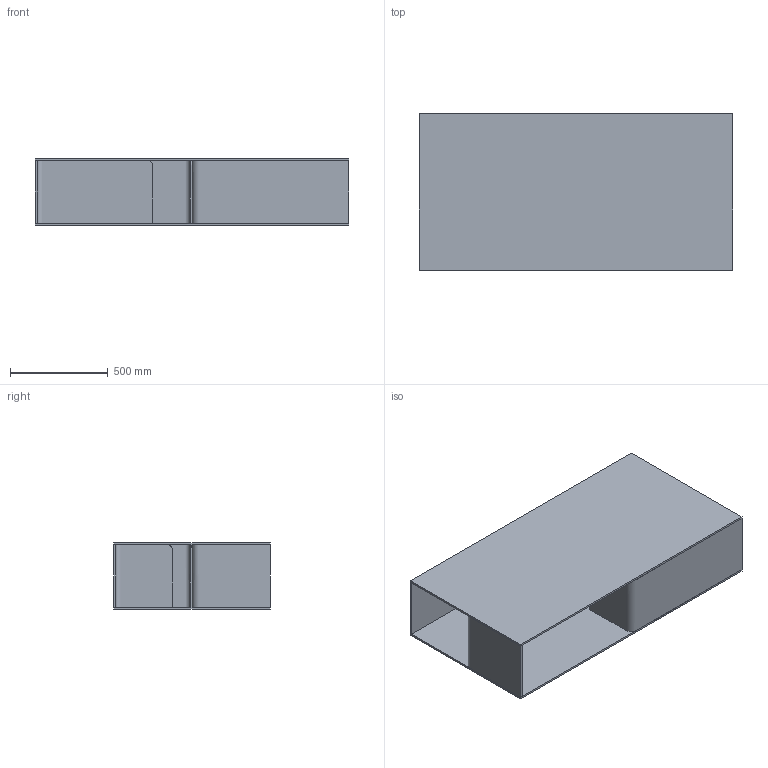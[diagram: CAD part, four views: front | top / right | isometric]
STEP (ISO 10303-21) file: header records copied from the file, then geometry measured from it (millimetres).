
FILE_DESCRIPTION(/* description */ (''),/* implementation_level */ '2;1');
FILE_NAME(/* name */ 'QUADRA~1',/* time_stamp */ '2025-03-18T08:51:30+01:00',/* author */ (''),/* organization */ (''),/* preprocessor_version */ 'ST-DEVELOPER v16.5',/* originating_system */ '',/* authorisation */ '');
FILE_SCHEMA (('CONFIG_CONTROL_DESIGN'));
Length unit declared in the file: millimetre
Products named in the file (1): Document
Bounding box: 1600 x 800 x 340 mm (x, y, z)
Volume: 39484813.2 mm3; surface area: 7914955.6 mm2
Topology: 6 solids, 6 shells, 40 faces, 86 edges, 58 vertices
Faces by surface type: plane 28, bspline 12
Entity records: 1297 total; most frequent: CARTESIAN_POINT 625, ORIENTED_EDGE 168, EDGE_CURVE 84, VERTEX_POINT 56, B_SPLINE_CURVE_WITH_KNOTS 52, ADVANCED_FACE 40, FACE_OUTER_BOUND 40, EDGE_LOOP 40
